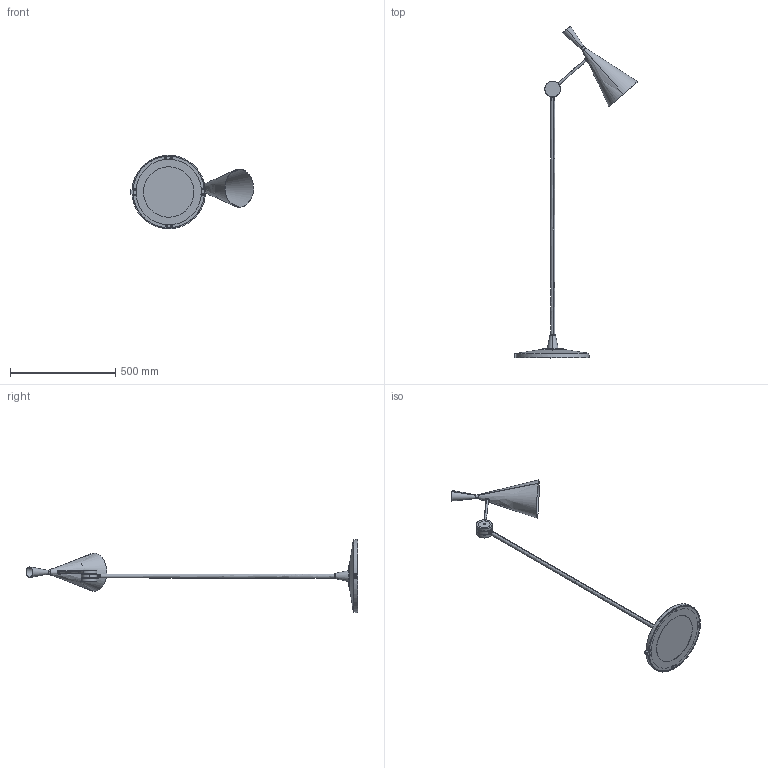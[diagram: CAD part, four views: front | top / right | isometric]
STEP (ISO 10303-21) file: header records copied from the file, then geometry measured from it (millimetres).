
FILE_DESCRIPTION(/* description */ (''),/* implementation_level */ '2;1');
FILE_NAME(/* name */ 'Floor',/* time_stamp */ '2022-07-12T13:01:15+01:00',/* author */ (''),/* organization */ (''),/* preprocessor_version */ 'ST-DEVELOPER v16.5',/* originating_system */ '',/* authorisation */ '');
FILE_SCHEMA (('AUTOMOTIVE_DESIGN'));
Length unit declared in the file: millimetre
Products named in the file (1): Document
Bounding box: 586.94 x 1580.48 x 349.83 mm (x, y, z)
Volume: 1462188.6 mm3; surface area: 938182.9 mm2
Topology: 18 solids, 18 shells, 1129 faces, 2826 edges, 1792 vertices
Faces by surface type: bspline 903, plane 226
Entity records: 55693 total; most frequent: CARTESIAN_POINT 39405, ORIENTED_EDGE 5644, EDGE_CURVE 2822, VERTEX_POINT 1792, B_SPLINE_CURVE_WITH_KNOTS 1520, EDGE_LOOP 1230, ADVANCED_FACE 1129, FACE_OUTER_BOUND 1129
